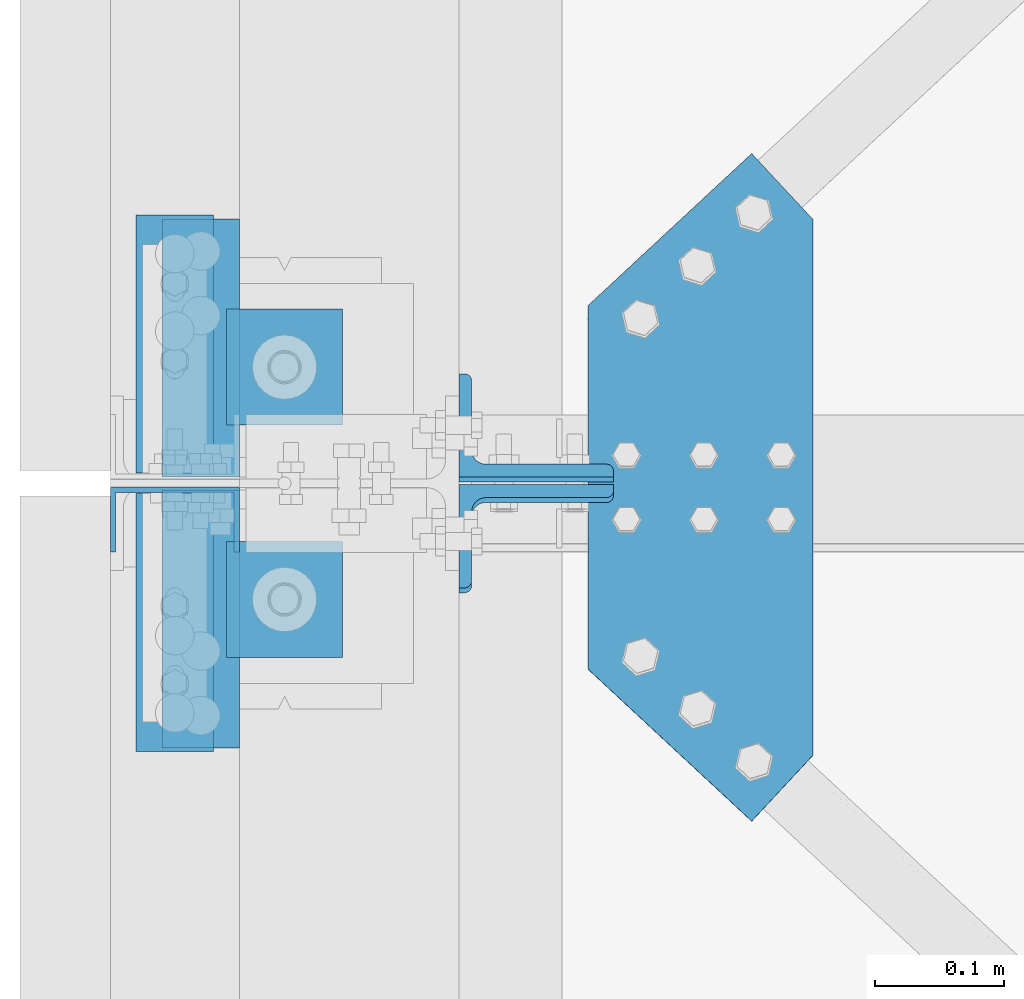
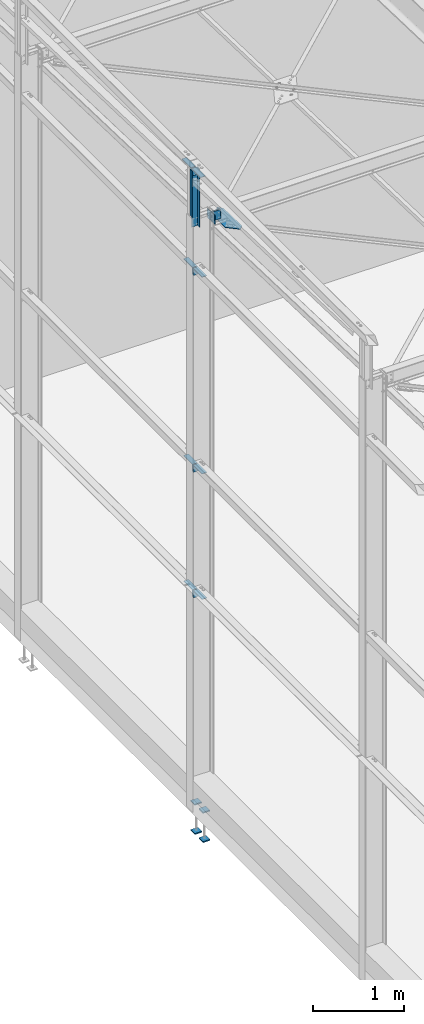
# One storey, part 72 of 362: 14 beams, 2 members, 13 elements without a shape of their own.
"""IFC2X3 building model written with IfcOpenShell, lengths in millimetres."""

from ifc_helpers import new_model, si_unit, frame, origin_with_axes, origin_2d_with_axis, place, context, subcontext, project, spatial, polyline, l_section, u_section, outline, extrude, boolean, material, type_object, element, aggregate, save


model = new_model("IFC2X3")

# Units and contexts
model_context = context("Model", 3, precision=1e-05, world=origin_with_axes())
body_context = subcontext(model_context, "Body", "Model", "MODEL_VIEW")
ifc_project = project(units=[si_unit("LENGTHUNIT", "METRE", prefix="MILLI"), si_unit("AREAUNIT", "SQUARE_METRE"), si_unit("VOLUMEUNIT", "CUBIC_METRE"), si_unit("MASSUNIT", "GRAM", prefix="KILO"), si_unit("TIMEUNIT", "SECOND"), si_unit("PLANEANGLEUNIT", "RADIAN"), si_unit("SOLIDANGLEUNIT", "STERADIAN"), si_unit("THERMODYNAMICTEMPERATUREUNIT", "DEGREE_CELSIUS"), si_unit("LUMINOUSINTENSITYUNIT", "LUMEN")], contexts=[model_context])

# Site, building, storey
site_placement = place(None, origin_with_axes())
site = spatial("IfcSite", under=ifc_project, at=site_placement, Name="Undefined", CompositionType="ELEMENT")
building_placement = place(site_placement, origin_with_axes())
building = spatial("IfcBuilding", under=site, at=building_placement, Name="Undefined", CompositionType="ELEMENT")
storey_placement = place(building_placement, origin_with_axes())
storey = spatial("IfcBuildingStorey", under=building, at=storey_placement, Name="Undefined", CompositionType="ELEMENT", Elevation=0.0)

# Assembly, beam
assembly_1_placement = place(storey_placement, origin_with_axes())
assembly_1 = element("IfcElementAssembly", 1, at=assembly_1_placement, inside=storey, AssemblyPlace="NOTDEFINED", PredefinedType="NOTDEFINED")
ifc_material = material(Name="Undefined/S235-E24")
beam_type_1 = type_object("IfcBeamType", Name="UPF-100*50*4", PredefinedType="NOTDEFINED")
beam_1_placement = place(assembly_1_placement, frame((-130.000001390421, 7571.70000007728, 8444.9989692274), z_axis=(1.0, 0.0, 0.0), x_axis=(0.0, 0.0, -1.0)))
beam_1 = element("IfcBeam", 2, at=beam_1_placement, type_object=beam_type_1, material=ifc_material, Name="BAIONNETTE", ObjectType="UPF-100*50*4", context=body_context, shape_type="CSG", body=[
    boolean("DIFFERENCE", extrude(u_section(Depth=100.0, FlangeWidth=50.0, WebThickness=4.0, FlangeThickness=4.0, at=origin_2d_with_axis()), frame((789.998684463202, 0.0, 0.0), z_axis=(-1.0, 0.0, 0.0), x_axis=(0.0, -1.0, 0.0)), (0.0, 0.0, 1.0), 790.0), extrude(outline(polyline([(0.0, 0.0), (19.9999999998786, -3.63797880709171e-12), (19.9999939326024, 170.0), (-6.06739681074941e-06, 170.0), (0.0, 0.0)])), frame((619.998558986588, -27.5000000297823, -50.0000000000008), z_axis=(0.0, 1.0, 0.0), x_axis=(0.0, 0.0, 1.0)), (0.0, 0.0, 1.0), 55.0)),
])
aggregate(assembly_1, [beam_1])

assembly_2_placement = place(storey_placement, origin_with_axes())
assembly_2 = element("IfcElementAssembly", 3, at=assembly_2_placement, inside=storey, AssemblyPlace="NOTDEFINED", PredefinedType="NOTDEFINED")
beam_type_2 = type_object("IfcBeamType", Name="TOLE6*175", PredefinedType="NOTDEFINED")
beam_2_placement = place(assembly_2_placement, frame((190.000000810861, 7737.43555853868, 7603.74442003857), z_axis=(-1.05403257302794e-09, -0.0314112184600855, -0.999506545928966), x_axis=(0.732434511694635, 0.680501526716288, -0.0213859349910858)))
beam_2 = element("IfcBeam", 4, at=beam_2_placement, type_object=beam_type_2, material=ifc_material, Name="GOUSSET", ObjectType="TOLE6*175", context=body_context, shape_type="SweptSolid", body=[
    extrude(outline(polyline([(0.0, 0.0), (173.397750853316, 2.20097717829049e-10), (173.397735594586, 70.0000000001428), (-109.18592071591, 373.992950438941), (-178.999572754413, 379.097320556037), (-191.641067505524, 206.164520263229), (0.0, 0.0)])), frame((0.0, 0.0, -3.0), z_axis=(0.0, 0.0, 1.0), x_axis=(1.0, 0.0, 0.0)), (0.0, 0.0, 1.0), 6.0),
])
aggregate(assembly_2, [beam_2])

assembly_3_placement = place(storey_placement, origin_with_axes())
assembly_3 = element("IfcElementAssembly", 5, at=assembly_3_placement, inside=storey, AssemblyPlace="NOTDEFINED", PredefinedType="NOTDEFINED")
beam_type_3 = type_object("IfcBeamType", Name="L200*100*10", PredefinedType="NOTDEFINED")
beam_3_placement = place(assembly_3_placement, frame((-99.9999997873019, 7708.0, 8400.0), z_axis=(0.0, 1.0, 0.0), x_axis=(-1.0, 0.0, 0.0)))
beam_3 = element("IfcBeam", 6, at=beam_3_placement, type_object=beam_type_3, material=ifc_material, Name="ATTACHE", ObjectType="L200*100*10", context=body_context, shape_type="SweptSolid", body=[
    extrude(l_section(Depth=200.0, Width=100.0, Thickness=10.0, FilletRadius=15.0, EdgeRadius=7.5, at=origin_2d_with_axis()), frame((60.0, 0.0, 0.0), z_axis=(-1.0, 0.0, 0.0), x_axis=(0.0, -1.0, 0.0)), (0.0, 0.0, 1.0), 60.0),
])
aggregate(assembly_3, [beam_3])

assembly_4_placement = place(storey_placement, origin_with_axes())
assembly_4 = element("IfcElementAssembly", 7, at=assembly_4_placement, inside=storey, AssemblyPlace="NOTDEFINED", PredefinedType="NOTDEFINED")
beam_4_placement = place(assembly_4_placement, frame((-159.999999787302, 7492.0, 8400.0), z_axis=(0.0, -1.0, 0.0), x_axis=(1.0, 0.0, 0.0)))
beam_4 = element("IfcBeam", 8, at=beam_4_placement, type_object=beam_type_3, material=ifc_material, Name="ATTACHE", ObjectType="L200*100*10", context=body_context, shape_type="SweptSolid", body=[
    extrude(l_section(Depth=200.0, Width=100.0, Thickness=10.0, FilletRadius=15.0, EdgeRadius=7.5, at=origin_2d_with_axis()), frame((60.0, 0.0, 0.0), z_axis=(-1.0, 0.0, 0.0), x_axis=(0.0, -1.0, 0.0)), (0.0, 0.0, 1.0), 60.0),
])
aggregate(assembly_4, [beam_4])

assembly_5_placement = place(storey_placement, origin_with_axes())
assembly_5 = element("IfcElementAssembly", 9, at=assembly_5_placement, inside=storey, AssemblyPlace="NOTDEFINED", PredefinedType="NOTDEFINED")
beam_5_placement = place(assembly_5_placement, frame((-80.000006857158, 7705.00000064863, 2709.9999839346), z_axis=(0.0, 1.0, 0.0), x_axis=(-1.0, 0.0, 0.0)))
beam_5 = element("IfcBeam", 10, at=beam_5_placement, type_object=beam_type_3, material=ifc_material, Name="ATTACHE", ObjectType="L200*100*10", context=body_context, shape_type="SweptSolid", body=[
    extrude(l_section(Depth=200.0, Width=100.0, Thickness=10.0, FilletRadius=15.0, EdgeRadius=7.5, at=origin_2d_with_axis()), frame((60.0, 0.0, 0.0), z_axis=(-1.0, 0.0, 0.0), x_axis=(0.0, -1.0, 0.0)), (0.0, 0.0, 1.0), 60.0),
])
aggregate(assembly_5, [beam_5])

assembly_6_placement = place(storey_placement, origin_with_axes())
assembly_6 = element("IfcElementAssembly", 11, at=assembly_6_placement, inside=storey, AssemblyPlace="NOTDEFINED", PredefinedType="NOTDEFINED")
beam_6_placement = place(assembly_6_placement, frame((-140.000006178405, 7495.00000045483, 2709.9999839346), z_axis=(0.0, -1.0, 0.0), x_axis=(1.0, 0.0, 0.0)))
beam_6 = element("IfcBeam", 12, at=beam_6_placement, type_object=beam_type_3, material=ifc_material, Name="ATTACHE", ObjectType="L200*100*10", context=body_context, shape_type="SweptSolid", body=[
    extrude(l_section(Depth=200.0, Width=100.0, Thickness=10.0, FilletRadius=15.0, EdgeRadius=7.5, at=origin_2d_with_axis()), frame((60.0, 0.0, 0.0), z_axis=(-1.0, 0.0, 0.0), x_axis=(0.0, -1.0, 0.0)), (0.0, 0.0, 1.0), 60.0),
])
aggregate(assembly_6, [beam_6])

assembly_7_placement = place(storey_placement, origin_with_axes())
assembly_7 = element("IfcElementAssembly", 13, at=assembly_7_placement, inside=storey, AssemblyPlace="NOTDEFINED", PredefinedType="NOTDEFINED")
beam_7_placement = place(assembly_7_placement, frame((-80.000006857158, 7705.00000064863, 4399.99998404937), z_axis=(0.0, 1.0, 0.0), x_axis=(-1.0, 0.0, 0.0)))
beam_7 = element("IfcBeam", 14, at=beam_7_placement, type_object=beam_type_3, material=ifc_material, Name="ATTACHE", ObjectType="L200*100*10", context=body_context, shape_type="SweptSolid", body=[
    extrude(l_section(Depth=200.0, Width=100.0, Thickness=10.0, FilletRadius=15.0, EdgeRadius=7.5, at=origin_2d_with_axis()), frame((60.0, 0.0, 0.0), z_axis=(-1.0, 0.0, 0.0), x_axis=(0.0, -1.0, 0.0)), (0.0, 0.0, 1.0), 60.0),
])
aggregate(assembly_7, [beam_7])

assembly_8_placement = place(storey_placement, origin_with_axes())
assembly_8 = element("IfcElementAssembly", 15, at=assembly_8_placement, inside=storey, AssemblyPlace="NOTDEFINED", PredefinedType="NOTDEFINED")
beam_8_placement = place(assembly_8_placement, frame((-140.000006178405, 7495.00000045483, 4399.99998404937), z_axis=(0.0, -1.0, 0.0), x_axis=(1.0, 0.0, 0.0)))
beam_8 = element("IfcBeam", 16, at=beam_8_placement, type_object=beam_type_3, material=ifc_material, Name="ATTACHE", ObjectType="L200*100*10", context=body_context, shape_type="SweptSolid", body=[
    extrude(l_section(Depth=200.0, Width=100.0, Thickness=10.0, FilletRadius=15.0, EdgeRadius=7.5, at=origin_2d_with_axis()), frame((60.0, 0.0, 0.0), z_axis=(-1.0, 0.0, 0.0), x_axis=(0.0, -1.0, 0.0)), (0.0, 0.0, 1.0), 60.0),
])
aggregate(assembly_8, [beam_8])

assembly_9_placement = place(storey_placement, origin_with_axes())
assembly_9 = element("IfcElementAssembly", 17, at=assembly_9_placement, inside=storey, AssemblyPlace="NOTDEFINED", PredefinedType="NOTDEFINED")
beam_9_placement = place(assembly_9_placement, frame((-80.000006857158, 7705.00000064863, 7050.0), z_axis=(0.0, 1.0, 0.0), x_axis=(-1.0, 0.0, 0.0)))
beam_9 = element("IfcBeam", 18, at=beam_9_placement, type_object=beam_type_3, material=ifc_material, Name="ATTACHE", ObjectType="L200*100*10", context=body_context, shape_type="SweptSolid", body=[
    extrude(l_section(Depth=200.0, Width=100.0, Thickness=10.0, FilletRadius=15.0, EdgeRadius=7.5, at=origin_2d_with_axis()), frame((60.0, 0.0, 0.0), z_axis=(-1.0, 0.0, 0.0), x_axis=(0.0, -1.0, 0.0)), (0.0, 0.0, 1.0), 60.0),
])
aggregate(assembly_9, [beam_9])

assembly_10_placement = place(storey_placement, origin_with_axes())
assembly_10 = element("IfcElementAssembly", 19, at=assembly_10_placement, inside=storey, AssemblyPlace="NOTDEFINED", PredefinedType="NOTDEFINED")
beam_10_placement = place(assembly_10_placement, frame((-140.000006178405, 7495.00000045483, 7050.0), z_axis=(0.0, -1.0, 0.0), x_axis=(1.0, 0.0, 0.0)))
beam_10 = element("IfcBeam", 20, at=beam_10_placement, type_object=beam_type_3, material=ifc_material, Name="ATTACHE", ObjectType="L200*100*10", context=body_context, shape_type="SweptSolid", body=[
    extrude(l_section(Depth=200.0, Width=100.0, Thickness=10.0, FilletRadius=15.0, EdgeRadius=7.5, at=origin_2d_with_axis()), frame((60.0, 0.0, 0.0), z_axis=(-1.0, 0.0, 0.0), x_axis=(0.0, -1.0, 0.0)), (0.0, 0.0, 1.0), 60.0),
])
aggregate(assembly_10, [beam_10])

# Assembly, member
assembly_11_placement = place(storey_placement, origin_with_axes())
assembly_11 = element("IfcElementAssembly", 21, at=assembly_11_placement, inside=storey, AssemblyPlace="NOTDEFINED", PredefinedType="NOTDEFINED")
member_type = type_object("IfcMemberType", Name="L120*80*10", PredefinedType="NOTDEFINED")
member_1_placement = place(assembly_11_placement, frame((149.999999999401, 7641.09495636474, 7649.78811301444), z_axis=(1.0, 0.0, 0.0), x_axis=(7.58071938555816e-11, 0.0314107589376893, 0.999506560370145)))
member_1 = element("IfcMember", 22, at=member_1_placement, type_object=member_type, material=ifc_material, Name="ATTACHE", ObjectType="L120*80*10", context=body_context, shape_type="SweptSolid", body=[
    extrude(l_section(Depth=120.0, Width=80.0, Thickness=10.0, FilletRadius=11.0, EdgeRadius=5.5, at=origin_2d_with_axis()), frame((120.0, 0.0, 0.0), z_axis=(-1.0, 0.0, 0.0), x_axis=(0.0, -1.0, 0.0)), (0.0, 0.0, 1.0), 120.0),
])
aggregate(assembly_11, [member_1])

assembly_12_placement = place(storey_placement, origin_with_axes())
assembly_12 = element("IfcElementAssembly", 23, at=assembly_12_placement, inside=storey, AssemblyPlace="NOTDEFINED", PredefinedType="NOTDEFINED")
member_2_placement = place(assembly_12_placement, frame((149.999999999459, 7558.9058777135, 7772.43029036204), z_axis=(1.0, 0.0, 0.0), x_axis=(-1.05403257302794e-09, -0.0314112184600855, -0.999506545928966)))
member_2 = element("IfcMember", 24, at=member_2_placement, type_object=member_type, material=ifc_material, Name="ATTACHE", ObjectType="L120*80*10", context=body_context, shape_type="SweptSolid", body=[
    extrude(l_section(Depth=120.0, Width=80.0, Thickness=10.0, FilletRadius=11.0, EdgeRadius=5.5, at=origin_2d_with_axis()), frame((120.0, 0.0, 0.0), z_axis=(-1.0, 0.0, 0.0), x_axis=(0.0, -1.0, 0.0)), (0.0, 0.0, 1.0), 120.0),
])
aggregate(assembly_12, [member_2])

# Assembly, beams
assembly_13_placement = place(storey_placement, origin_with_axes())
assembly_13 = element("IfcElementAssembly", 25, at=assembly_13_placement, inside=storey, Name="PRESCELLEMENT PS24", AssemblyPlace="NOTDEFINED", PredefinedType="NOTDEFINED")
beam_type_4 = type_object("IfcBeamType", Name="PL15*90", PredefinedType="NOTDEFINED")
beam_11_placement = place(assembly_13_placement, frame((0.0, 7554.99715044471, -177.5), z_axis=(0.0, 0.0, 1.0), x_axis=(-1.0, 0.0, 0.0)))
beam_11 = element("IfcBeam", 26, at=beam_11_placement, type_object=beam_type_4, material=ifc_material, Name="PLAQUETTE", ObjectType="PL15*90", context=body_context, shape_type="SweptSolid", body=[
    extrude(outline(polyline([(0.0, 0.0), (90.0, 0.0), (90.0, 90.0), (0.0, 90.0), (0.0, 0.0)])), frame((0.0, 0.0, -7.5), z_axis=(0.0, 0.0, 1.0), x_axis=(1.0, 0.0, 0.0)), (0.0, 0.0, 1.0), 15.0),
])
beam_12_placement = place(assembly_13_placement, frame((0.0, 7734.99715044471, -177.5), z_axis=(0.0, 0.0, 1.0), x_axis=(-1.0, 0.0, 0.0)))
beam_12 = element("IfcBeam", 27, at=beam_12_placement, type_object=beam_type_4, material=ifc_material, Name="PLAQUETTE", ObjectType="PL15*90", context=body_context, shape_type="SweptSolid", body=[
    extrude(outline(polyline([(0.0, 0.0), (90.0, 0.0), (90.0, 90.0), (0.0, 90.0), (0.0, 0.0)])), frame((0.0, 0.0, -7.5), z_axis=(0.0, 0.0, 1.0), x_axis=(1.0, 0.0, 0.0)), (0.0, 0.0, 1.0), 15.0),
])
beam_13_placement = place(assembly_13_placement, frame((0.0, 7554.99715044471, -572.5), z_axis=(0.0, 0.0, 1.0), x_axis=(-1.0, 0.0, 0.0)))
beam_13 = element("IfcBeam", 28, at=beam_13_placement, type_object=beam_type_4, material=ifc_material, Name="PLAQUETTE", ObjectType="PL15*90", context=body_context, shape_type="SweptSolid", body=[
    extrude(outline(polyline([(0.0, 0.0), (90.0, 0.0), (90.0, 90.0), (0.0, 90.0), (0.0, 0.0)])), frame((0.0, 0.0, -7.5), z_axis=(0.0, 0.0, 1.0), x_axis=(1.0, 0.0, 0.0)), (0.0, 0.0, 1.0), 15.0),
])
beam_14_placement = place(assembly_13_placement, frame((0.0, 7734.99715044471, -572.5), z_axis=(0.0, 0.0, 1.0), x_axis=(-1.0, 0.0, 0.0)))
beam_14 = element("IfcBeam", 29, at=beam_14_placement, type_object=beam_type_4, material=ifc_material, Name="PLAQUETTE", ObjectType="PL15*90", context=body_context, shape_type="SweptSolid", body=[
    extrude(outline(polyline([(0.0, 0.0), (90.0, 0.0), (90.0, 90.0), (0.0, 90.0), (0.0, 0.0)])), frame((0.0, 0.0, -7.5), z_axis=(0.0, 0.0, 1.0), x_axis=(1.0, 0.0, 0.0)), (0.0, 0.0, 1.0), 15.0),
])
aggregate(assembly_13, [beam_11, beam_12, beam_13, beam_14])

save(model, "model.ifc")
